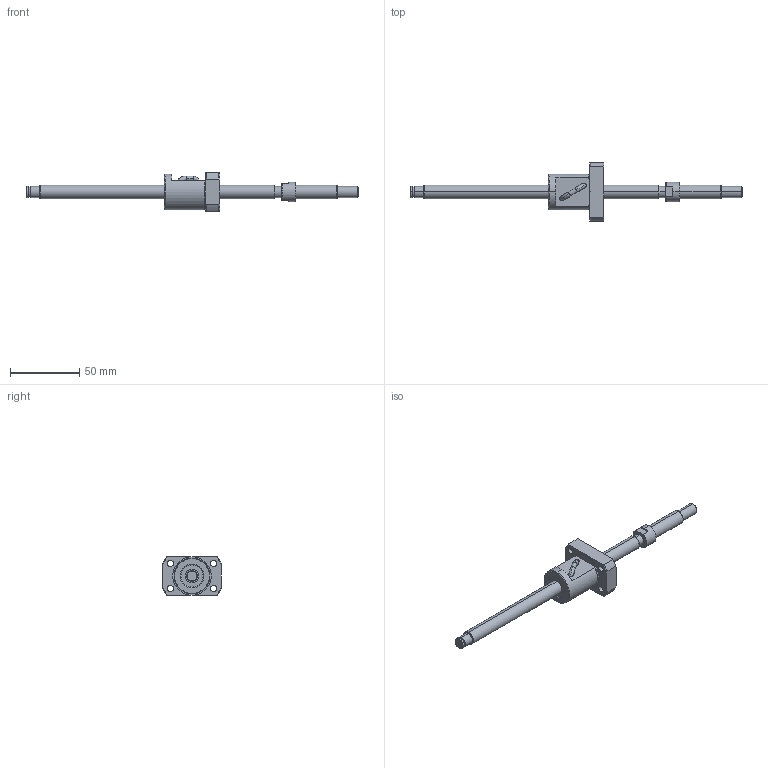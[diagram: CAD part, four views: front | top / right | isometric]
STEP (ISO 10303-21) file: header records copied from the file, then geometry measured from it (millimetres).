
FILE_DESCRIPTION (( 'STEP AP214' ), '1' );
FILE_NAME ('BS1006A-3D.STEP', '2014-03-07T17:13:36', ( '' ), ( '' ), 'SwSTEP 2.0', 'SolidWorks 2012', '' );
FILE_SCHEMA (( 'AUTOMOTIVE_DESIGN' ));
Length unit declared in the file: millimetre
Products named in the file (3): BS1006AŽ²; BS1006Aナット; BS1006A-3D
Assembly tree (2 placements, depth 2):
  BS1006A-3D
    BS1006Aナット
    BS1006AŽ²
Bounding box: 240 x 42 x 28 mm (x, y, z)
Volume: 39365.1 mm3; surface area: 17644.1 mm2
Topology: 5 solids, 5 shells, 165 faces, 416 edges, 270 vertices
Faces by surface type: cylinder 80, plane 45, cone 34, torus 4, bspline 2
Entity records: 6329 total; most frequent: CARTESIAN_POINT 2096, DIRECTION 882, ORIENTED_EDGE 828, EDGE_CURVE 414, AXIS2_PLACEMENT_3D 372, VERTEX_POINT 270, CIRCLE 204, EDGE_LOOP 200
